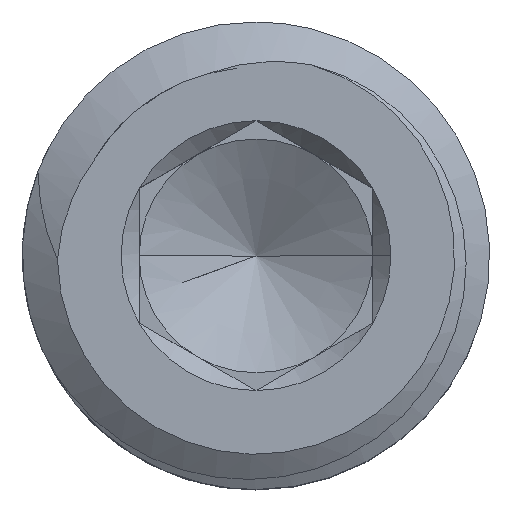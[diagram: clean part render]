
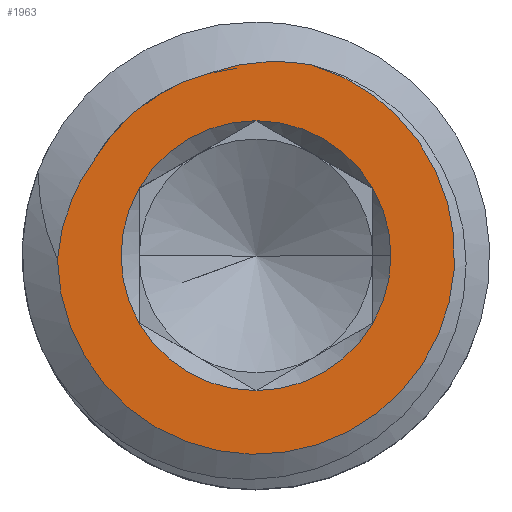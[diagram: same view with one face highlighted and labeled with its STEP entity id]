
A CAD part, top view. The second image highlights one B-rep face of the part: STEP entity #1963.
In plain terms, the highlighted planar face has unit normal (0, 0, 1).
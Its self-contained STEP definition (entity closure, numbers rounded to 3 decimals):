
#8 = CIRCLE ( 'NONE', #1453, 2.887 ) ;
#12 = ORIENTED_EDGE ( 'NONE', *, *, #1096, .F. ) ;
#53 = AXIS2_PLACEMENT_3D ( 'NONE', #2286, #1749, #1759 ) ;
#60 = EDGE_CURVE ( 'NONE', #422, #1183, #652, .T. ) ;
#103 = CARTESIAN_POINT ( 'NONE',  ( 0., -2.887, 5. ) ) ;
#122 = CIRCLE ( 'NONE', #1684, 2.887 ) ;
#134 = CARTESIAN_POINT ( 'NONE',  ( -4.222, 0.288, 5. ) ) ;
#154 = CARTESIAN_POINT ( 'NONE',  ( 0.813, 4.138, 5. ) ) ;
#165 = CARTESIAN_POINT ( 'NONE',  ( 0.435, 4.157, 5. ) ) ;
#171 = DIRECTION ( 'NONE',  ( 0., 0., 1. ) ) ;
#232 = DIRECTION ( 'NONE',  ( 0., 0., 1. ) ) ;
#245 = DIRECTION ( 'NONE',  ( 0., 0., 1. ) ) ;
#290 = CARTESIAN_POINT ( 'NONE',  ( -2.25, 3.349, 5. ) ) ;
#302 = CARTESIAN_POINT ( 'NONE',  ( -3.492, 2.002, 5. ) ) ;
#307 = DIRECTION ( 'NONE',  ( 1., 0., 0. ) ) ;
#313 = CARTESIAN_POINT ( 'NONE',  ( -3.714, 1.696, 5. ) ) ;
#325 = DIRECTION ( 'NONE',  ( 0., 0., 1. ) ) ;
#336 = DIRECTION ( 'NONE',  ( 0., -1., 0. ) ) ;
#407 = EDGE_CURVE ( 'NONE', #1196, #1571, #2214, .T. ) ;
#411 = DIRECTION ( 'NONE',  ( 1., 0., 0. ) ) ;
#418 = CIRCLE ( 'NONE', #1243, 2.887 ) ;
#422 = VERTEX_POINT ( 'NONE', #1933 ) ;
#434 = EDGE_CURVE ( 'NONE', #1571, #422, #418, .T. ) ;
#466 = B_SPLINE_CURVE_WITH_KNOTS ( 'NONE', 3,
 ( #512, #705, #2385, #649, #165, #154, #1192, #902 ),
 .UNSPECIFIED., .F., .F.,
 ( 4, 2, 2, 4 ),
 ( 0., 0.001, 0.002, 0.002 ),
 .UNSPECIFIED. ) ;
#469 = CARTESIAN_POINT ( 'NONE',  ( 0., 0., 5. ) ) ;
#488 = CARTESIAN_POINT ( 'NONE',  ( -1.054, 3.885, 5. ) ) ;
#512 = CARTESIAN_POINT ( 'NONE',  ( -1.054, 3.885, 5. ) ) ;
#535 = AXIS2_PLACEMENT_3D ( 'NONE', #869, #171, #307 ) ;
#609 = CARTESIAN_POINT ( 'NONE',  ( 0., 0., 5. ) ) ;
#622 = EDGE_LOOP ( 'NONE', ( #1362, #1082, #2117, #1655, #2284, #958, #1767 ) ) ;
#634 = CARTESIAN_POINT ( 'NONE',  ( -3.36, 2.233, 5. ) ) ;
#635 = CARTESIAN_POINT ( 'NONE',  ( -4.249, -0.084, 5. ) ) ;
#640 = ORIENTED_EDGE ( 'NONE', *, *, #1747, .T. ) ;
#649 = CARTESIAN_POINT ( 'NONE',  ( 0.242, 4.154, 5. ) ) ;
#652 = CIRCLE ( 'NONE', #535, 2.887 ) ;
#691 = CARTESIAN_POINT ( 'NONE',  ( -2.024, 3.49, 5. ) ) ;
#705 = CARTESIAN_POINT ( 'NONE',  ( -0.696, 4.024, 5. ) ) ;
#791 = EDGE_CURVE ( 'NONE', #1952, #2050, #1426, .T. ) ;
#797 = DIRECTION ( 'NONE',  ( 1., 0., 0. ) ) ;
#817 = CARTESIAN_POINT ( 'NONE',  ( 1.188, 4.081, 5. ) ) ;
#845 = CARTESIAN_POINT ( 'NONE',  ( -3.492, 2.002, 5. ) ) ;
#869 = CARTESIAN_POINT ( 'NONE',  ( 0., 0., 5. ) ) ;
#876 = CARTESIAN_POINT ( 'NONE',  ( -3.492, 2.002, 5. ) ) ;
#891 = B_SPLINE_CURVE_WITH_KNOTS ( 'NONE', 3,
 ( #845, #634, #2155, #1980, #2132, #290, #691, #1445, #1657, #2185 ),
 .UNSPECIFIED., .F., .F.,
 ( 4, 2, 2, 2, 4 ),
 ( 0., 0.001, 0.002, 0.002, 0.003 ),
 .UNSPECIFIED. ) ;
#902 = CARTESIAN_POINT ( 'NONE',  ( 1.188, 4.081, 5. ) ) ;
#935 = ORIENTED_EDGE ( 'NONE', *, *, #1778, .F. ) ;
#958 = ORIENTED_EDGE ( 'NONE', *, *, #1716, .F. ) ;
#975 = PLANE ( 'NONE',  #53 ) ;
#985 = DIRECTION ( 'NONE',  ( 1., 0., 0. ) ) ;
#1001 = CARTESIAN_POINT ( 'NONE',  ( 0., 2.887, 5. ) ) ;
#1068 = VERTEX_POINT ( 'NONE', #488 ) ;
#1081 = VERTEX_POINT ( 'NONE', #1412 ) ;
#1082 = ORIENTED_EDGE ( 'NONE', *, *, #407, .F. ) ;
#1086 = VERTEX_POINT ( 'NONE', #103 ) ;
#1090 = CIRCLE ( 'NONE', #1727, 2.887 ) ;
#1096 = EDGE_CURVE ( 'NONE', #2050, #1068, #891, .T. ) ;
#1099 = CIRCLE ( 'NONE', #1971, 2.887 ) ;
#1149 = ORIENTED_EDGE ( 'NONE', *, *, #791, .F. ) ;
#1151 = CARTESIAN_POINT ( 'NONE',  ( -4.249, -0.084, 5. ) ) ;
#1177 = FACE_BOUND ( 'NONE', #622, .T. ) ;
#1183 = VERTEX_POINT ( 'NONE', #2207 ) ;
#1192 = CARTESIAN_POINT ( 'NONE',  ( 1.001, 4.115, 5. ) ) ;
#1196 = VERTEX_POINT ( 'NONE', #2375 ) ;
#1219 = DIRECTION ( 'NONE',  ( 0., 0., 1. ) ) ;
#1239 = CARTESIAN_POINT ( 'NONE',  ( 0., 0., 5. ) ) ;
#1243 = AXIS2_PLACEMENT_3D ( 'NONE', #2116, #245, #985 ) ;
#1281 = VERTEX_POINT ( 'NONE', #817 ) ;
#1286 = DIRECTION ( 'NONE',  ( 0., 0., 1. ) ) ;
#1362 = ORIENTED_EDGE ( 'NONE', *, *, #434, .F. ) ;
#1396 = EDGE_LOOP ( 'NONE', ( #1149, #640, #935, #12 ) ) ;
#1412 = CARTESIAN_POINT ( 'NONE',  ( 2.5, -1.443, 5. ) ) ;
#1426 = B_SPLINE_CURVE_WITH_KNOTS ( 'NONE', 3,
 ( #635, #134, #1625, #2177, #313, #876 ),
 .UNSPECIFIED., .F., .F.,
 ( 4, 2, 4 ),
 ( 0.002, 0.003, 0.004 ),
 .UNSPECIFIED. ) ;
#1438 = AXIS2_PLACEMENT_3D ( 'NONE', #609, #232, #797 ) ;
#1445 = CARTESIAN_POINT ( 'NONE',  ( -1.555, 3.722, 5. ) ) ;
#1453 = AXIS2_PLACEMENT_3D ( 'NONE', #469, #325, #1549 ) ;
#1535 = CIRCLE ( 'NONE', #2228, 4.25 ) ;
#1549 = DIRECTION ( 'NONE',  ( 1., 0., 0. ) ) ;
#1571 = VERTEX_POINT ( 'NONE', #1001 ) ;
#1625 = CARTESIAN_POINT ( 'NONE',  ( -4.143, 0.662, 5. ) ) ;
#1655 = ORIENTED_EDGE ( 'NONE', *, *, #1812, .F. ) ;
#1657 = CARTESIAN_POINT ( 'NONE',  ( -1.31, 3.816, 5. ) ) ;
#1660 = CARTESIAN_POINT ( 'NONE',  ( 0., 0., 5. ) ) ;
#1684 = AXIS2_PLACEMENT_3D ( 'NONE', #1239, #1989, #2282 ) ;
#1716 = EDGE_CURVE ( 'NONE', #1183, #1086, #1099, .T. ) ;
#1717 = DIRECTION ( 'NONE',  ( 0., 0., 1. ) ) ;
#1727 = AXIS2_PLACEMENT_3D ( 'NONE', #1660, #1286, #2041 ) ;
#1747 = EDGE_CURVE ( 'NONE', #1952, #1281, #1535, .T. ) ;
#1749 = DIRECTION ( 'NONE',  ( 0., 0., -1. ) ) ;
#1759 = DIRECTION ( 'NONE',  ( 0., 1., 0. ) ) ;
#1767 = ORIENTED_EDGE ( 'NONE', *, *, #60, .F. ) ;
#1778 = EDGE_CURVE ( 'NONE', #1068, #1281, #466, .T. ) ;
#1812 = EDGE_CURVE ( 'NONE', #1081, #2192, #8, .T. ) ;
#1904 = CARTESIAN_POINT ( 'NONE',  ( 0., 0., 5. ) ) ;
#1909 = FACE_OUTER_BOUND ( 'NONE', #1396, .T. ) ;
#1933 = CARTESIAN_POINT ( 'NONE',  ( -2.5, 1.443, 5. ) ) ;
#1952 = VERTEX_POINT ( 'NONE', #1151 ) ;
#1963 = ADVANCED_FACE ( 'NONE', ( #1177, #1909 ), #975, .F. ) ;
#1971 = AXIS2_PLACEMENT_3D ( 'NONE', #1904, #1717, #411 ) ;
#1980 = CARTESIAN_POINT ( 'NONE',  ( -2.859, 2.846, 5. ) ) ;
#1989 = DIRECTION ( 'NONE',  ( 0., 0., 1. ) ) ;
#2041 = DIRECTION ( 'NONE',  ( 1., 0., 0. ) ) ;
#2050 = VERTEX_POINT ( 'NONE', #302 ) ;
#2116 = CARTESIAN_POINT ( 'NONE',  ( 0., 0., 5. ) ) ;
#2117 = ORIENTED_EDGE ( 'NONE', *, *, #2312, .F. ) ;
#2132 = CARTESIAN_POINT ( 'NONE',  ( -2.668, 3.026, 5. ) ) ;
#2155 = CARTESIAN_POINT ( 'NONE',  ( -3.205, 2.45, 5. ) ) ;
#2160 = CARTESIAN_POINT ( 'NONE',  ( 0., 0., 5. ) ) ;
#2165 = CARTESIAN_POINT ( 'NONE',  ( 2.887, 0., 5. ) ) ;
#2177 = CARTESIAN_POINT ( 'NONE',  ( -3.889, 1.362, 5. ) ) ;
#2185 = CARTESIAN_POINT ( 'NONE',  ( -1.054, 3.885, 5. ) ) ;
#2192 = VERTEX_POINT ( 'NONE', #2165 ) ;
#2204 = EDGE_CURVE ( 'NONE', #1086, #1081, #122, .T. ) ;
#2207 = CARTESIAN_POINT ( 'NONE',  ( -2.5, -1.443, 5. ) ) ;
#2214 = CIRCLE ( 'NONE', #1438, 2.887 ) ;
#2228 = AXIS2_PLACEMENT_3D ( 'NONE', #2160, #1219, #336 ) ;
#2282 = DIRECTION ( 'NONE',  ( 1., 0., 0. ) ) ;
#2284 = ORIENTED_EDGE ( 'NONE', *, *, #2204, .F. ) ;
#2286 = CARTESIAN_POINT ( 'NONE',  ( 0., 0., 5. ) ) ;
#2312 = EDGE_CURVE ( 'NONE', #2192, #1196, #1090, .T. ) ;
#2375 = CARTESIAN_POINT ( 'NONE',  ( 2.5, 1.443, 5. ) ) ;
#2385 = CARTESIAN_POINT ( 'NONE',  ( -0.327, 4.107, 5. ) ) ;
